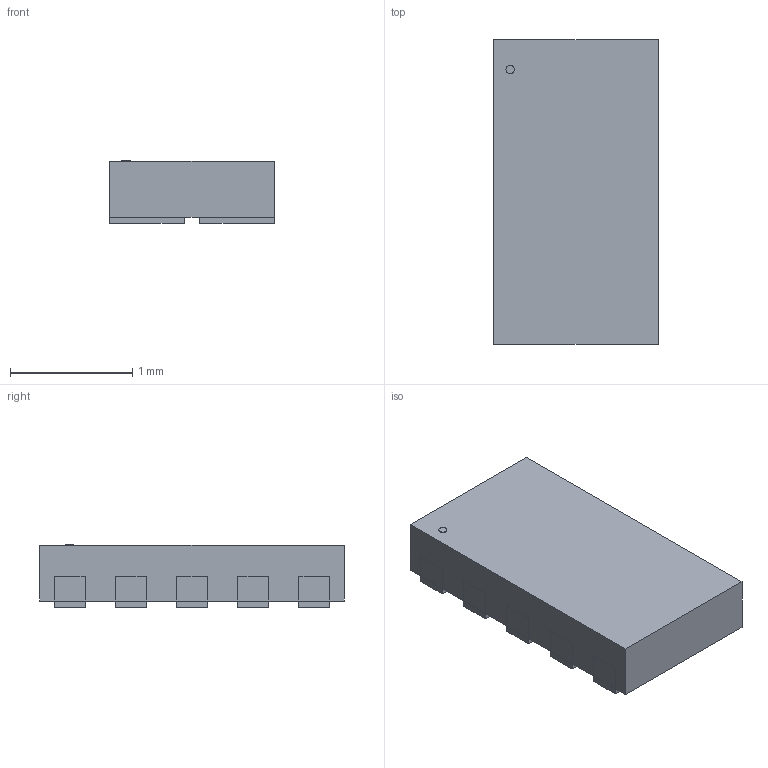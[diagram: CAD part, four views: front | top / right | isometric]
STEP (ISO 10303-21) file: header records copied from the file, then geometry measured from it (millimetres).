
FILE_DESCRIPTION(('STEP AP214'),'1');
FILE_NAME('XDFN10_2P5X1P3_ONS','2025-03-26T01:04:26',(''),(''),'','','');
FILE_SCHEMA(('AUTOMOTIVE_DESIGN'));
Length unit declared in the file: millimetre
Products named in the file (1): product
Bounding box: 1.35 x 2.49 x 0.51 mm (x, y, z)
Volume: 1.6 mm3; surface area: 15.2 mm2
Topology: 12 solids, 12 shells, 89 faces, 175 edges, 110 vertices
Faces by surface type: plane 88, cylinder 1
Full cylindrical faces by diameter (mm): 0.067 x1
Entity records: 2433 total; most frequent: ORIENTED_EDGE 388, DIRECTION 378, CARTESIAN_POINT 223, EDGE_CURVE 194, LINE 192, VECTOR 192, VERTEX_POINT 130, AXIS2_PLACEMENT_3D 93
